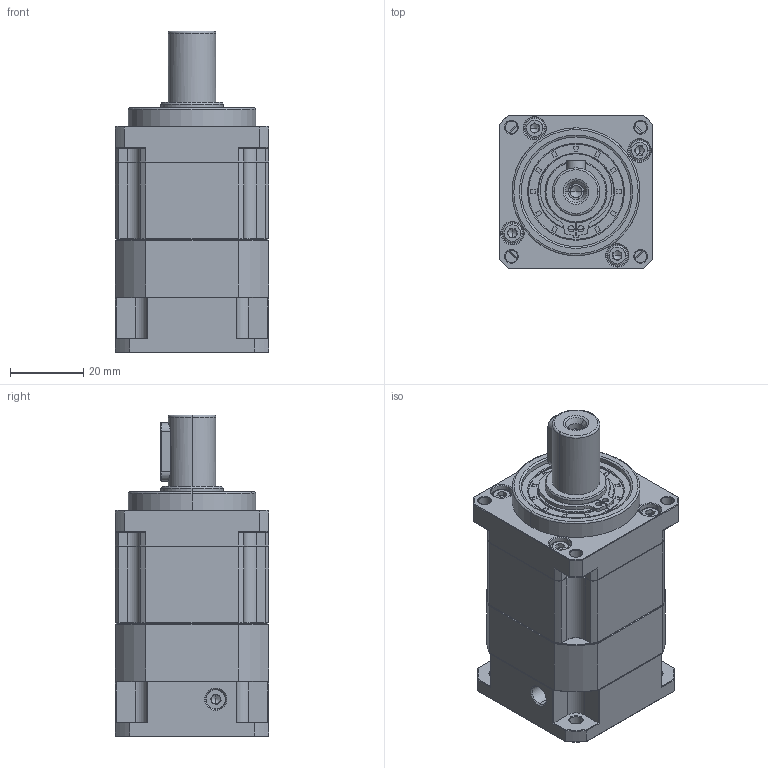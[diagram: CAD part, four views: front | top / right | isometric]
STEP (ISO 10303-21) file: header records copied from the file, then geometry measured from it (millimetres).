
FILE_DESCRIPTION (( 'STEP AP214' ), '1' );
FILE_NAME ('ZB040-L1-P2-5-22-31X31-3.51.STEP', '2023-06-06T12:51:40', ( 'Windows 蚚誧' ), ( 'Organization' ), 'SwSTEP 2.0', 'SolidWorks 2016', '' );
FILE_SCHEMA (( 'AUTOMOTIVE_DESIGN' ));
Length unit declared in the file: millimetre
Products named in the file (1): ZB040-L1-P2-5-22-31X31-3.51
Bounding box: 42 x 42 x 88 mm (x, y, z)
Volume: 98412.8 mm3; surface area: 26816 mm2
Topology: 6 solids, 6 shells, 1630 faces, 4171 edges, 2633 vertices
Faces by surface type: plane 711, cone 324, cylinder 307, bspline 267, torus 21
Entity records: 79357 total; most frequent: CARTESIAN_POINT 23660, ORIENTED_EDGE 8298, DIRECTION 7025, EDGE_CURVE 4149, VERTEX_POINT 2633, LINE 2385, VECTOR 2385, AXIS2_PLACEMENT_3D 2320
